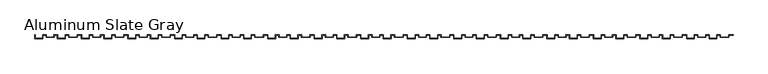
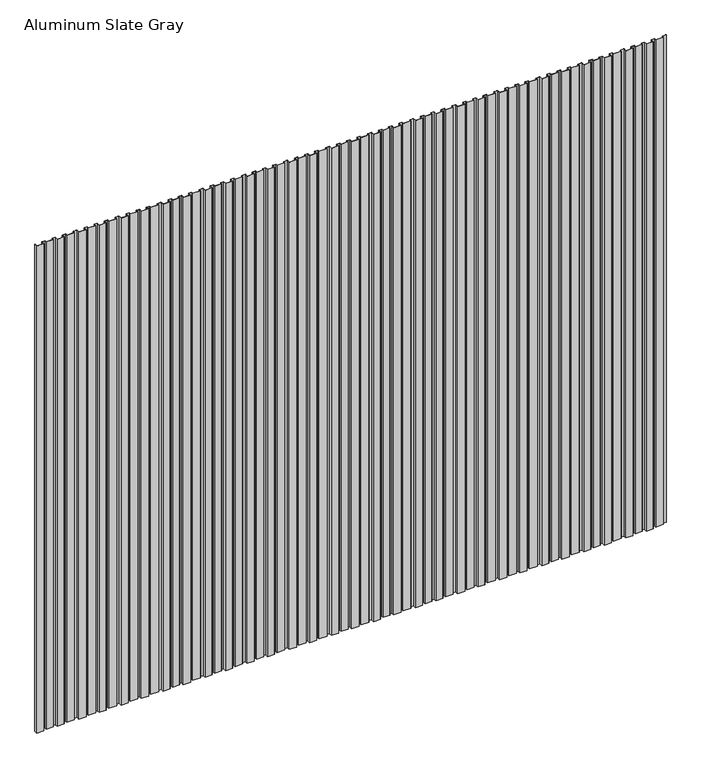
"""IFC4 building model written with IfcOpenShell, lengths in millimetres: proxy geometry, TITANTEK DV 3 VariPanel : Aluminum Slate Gray."""

from ifc_helpers import new_model, si_unit, origin, origin_with_axes, place, context, project, spatial, polyline, outline, extrude, source, transform, mapped, element, save


def aluminum_slate_gray_67ce4d6b(model_context):
    return source(origin(), model_context, "Body", "SweptSolid", [
        extrude(outline(polyline([(4876.403125, -0.9921875), (4876.403125, -15.875), (4815.284375, -15.875), (4815.284375, -0.9921875), (4791.86875, -0.9921875), (4791.86875, -25.4), (4736.30625, -25.4), (4736.30625, -0.9921875), (4712.890625, -0.9921875), (4712.890625, -15.875), (4657.328125, -15.875), (4657.328125, -0.9921875), (4633.9125, -0.9921875), (4633.9125, -25.4), (4578.35, -25.4), (4578.35, 0.0), (4579.3421875, 0.0), (4579.3421875, -24.4078125), (4632.9203125, -24.4078125), (4632.9203125, 0.0), (4658.3203125, 0.0), (4658.3203125, -14.8828125), (4711.8984375, -14.8828125), (4711.8984375, 0.0), (4737.2984375, 0.0), (4737.2984375, -24.4078125), (4790.8765625, -24.4078125), (4790.8765625, 0.0), (4816.2765625, 0.0), (4816.2765625, -14.8828125), (4875.4109375, -14.8828125), (4875.4109375, 0.0), (4905.375, 0.0), (4905.375, -0.9921875), (4876.403125, -0.9921875)])), origin_with_axes(), (0.0, 0.0, 1.0), 4000.0),
        extrude(outline(polyline([(4549.378125, -0.9921875), (4549.378125, -15.875), (4488.259375, -15.875), (4488.259375, -0.9921875), (4464.84375, -0.9921875), (4464.84375, -25.4), (4409.28125, -25.4), (4409.28125, -0.9921875), (4385.865625, -0.9921875), (4385.865625, -15.875), (4330.303125, -15.875), (4330.303125, -0.9921875), (4306.8875, -0.9921875), (4306.8875, -25.4), (4251.325, -25.4), (4251.325, 0.0), (4252.3171875, 0.0), (4252.3171875, -24.4078125), (4305.8953125, -24.4078125), (4305.8953125, 0.0), (4331.2953125, 0.0), (4331.2953125, -14.8828125), (4384.8734375, -14.8828125), (4384.8734375, 0.0), (4410.2734375, 0.0), (4410.2734375, -24.4078125), (4463.8515625, -24.4078125), (4463.8515625, 0.0), (4489.2515625, 0.0), (4489.2515625, -14.8828125), (4548.3859375, -14.8828125), (4548.3859375, 0.0), (4578.35, 0.0), (4578.35, -0.9921875), (4549.378125, -0.9921875)])), origin_with_axes(), (0.0, 0.0, 1.0), 4000.0),
        extrude(outline(polyline([(4222.353125, -0.9921875), (4222.353125, -15.875), (4161.234375, -15.875), (4161.234375, -0.9921875), (4137.81875, -0.9921875), (4137.81875, -25.4), (4082.25625, -25.4), (4082.25625, -0.9921875), (4058.840625, -0.9921875), (4058.840625, -15.875), (4003.278125, -15.875), (4003.278125, -0.9921875), (3979.8625, -0.9921875), (3979.8625, -25.4), (3924.3, -25.4), (3924.3, 0.0), (3925.2921875, 0.0), (3925.2921875, -24.4078125), (3978.8703125, -24.4078125), (3978.8703125, 0.0), (4004.2703125, 0.0), (4004.2703125, -14.8828125), (4057.8484375, -14.8828125), (4057.8484375, 0.0), (4083.2484375, 0.0), (4083.2484375, -24.4078125), (4136.8265625, -24.4078125), (4136.8265625, 0.0), (4162.2265625, 0.0), (4162.2265625, -14.8828125), (4221.3609375, -14.8828125), (4221.3609375, 0.0), (4251.325, 0.0), (4251.325, -0.9921875), (4222.353125, -0.9921875)])), origin_with_axes(), (0.0, 0.0, 1.0), 4000.0),
        extrude(outline(polyline([(3895.328125, -0.9921875), (3895.328125, -15.875), (3834.209375, -15.875), (3834.209375, -0.9921875), (3810.79375, -0.9921875), (3810.79375, -25.4), (3755.23125, -25.4), (3755.23125, -0.9921875), (3731.815625, -0.9921875), (3731.815625, -15.875), (3676.253125, -15.875), (3676.253125, -0.9921875), (3652.8375, -0.9921875), (3652.8375, -25.4), (3597.275, -25.4), (3597.275, 0.0), (3598.2671875, 0.0), (3598.2671875, -24.4078125), (3651.8453125, -24.4078125), (3651.8453125, 0.0), (3677.2453125, 0.0), (3677.2453125, -14.8828125), (3730.8234375, -14.8828125), (3730.8234375, 0.0), (3756.2234375, 0.0), (3756.2234375, -24.4078125), (3809.8015625, -24.4078125), (3809.8015625, 0.0), (3835.2015625, 0.0), (3835.2015625, -14.8828125), (3894.3359375, -14.8828125), (3894.3359375, 0.0), (3924.3, 0.0), (3924.3, -0.9921875), (3895.328125, -0.9921875)])), origin_with_axes(), (0.0, 0.0, 1.0), 4000.0),
        extrude(outline(polyline([(3568.303125, -0.9921875), (3568.303125, -15.875), (3507.184375, -15.875), (3507.184375, -0.9921875), (3483.76875, -0.9921875), (3483.76875, -25.4), (3428.20625, -25.4), (3428.20625, -0.9921875), (3404.790625, -0.9921875), (3404.790625, -15.875), (3349.228125, -15.875), (3349.228125, -0.9921875), (3325.8125, -0.9921875), (3325.8125, -25.4), (3270.25, -25.4), (3270.25, 0.0), (3271.2421875, 0.0), (3271.2421875, -24.4078125), (3324.8203125, -24.4078125), (3324.8203125, 0.0), (3350.2203125, 0.0), (3350.2203125, -14.8828125), (3403.7984375, -14.8828125), (3403.7984375, 0.0), (3429.1984375, 0.0), (3429.1984375, -24.4078125), (3482.7765625, -24.4078125), (3482.7765625, 0.0), (3508.1765625, 0.0), (3508.1765625, -14.8828125), (3567.3109375, -14.8828125), (3567.3109375, 0.0), (3597.275, 0.0), (3597.275, -0.9921875), (3568.303125, -0.9921875)])), origin_with_axes(), (0.0, 0.0, 1.0), 4000.0),
        extrude(outline(polyline([(3241.278125, -0.9921875), (3241.278125, -15.875), (3180.159375, -15.875), (3180.159375, -0.9921875), (3156.74375, -0.9921875), (3156.74375, -25.4), (3101.18125, -25.4), (3101.18125, -0.9921875), (3077.765625, -0.9921875), (3077.765625, -15.875), (3022.203125, -15.875), (3022.203125, -0.9921875), (2998.7875, -0.9921875), (2998.7875, -25.4), (2943.225, -25.4), (2943.225, 0.0), (2944.2171875, 0.0), (2944.2171875, -24.4078125), (2997.7953125, -24.4078125), (2997.7953125, 0.0), (3023.1953125, 0.0), (3023.1953125, -14.8828125), (3076.7734375, -14.8828125), (3076.7734375, 0.0), (3102.1734375, 0.0), (3102.1734375, -24.4078125), (3155.7515625, -24.4078125), (3155.7515625, 0.0), (3181.1515625, 0.0), (3181.1515625, -14.8828125), (3240.2859375, -14.8828125), (3240.2859375, 0.0), (3270.25, 0.0), (3270.25, -0.9921875), (3241.278125, -0.9921875)])), origin_with_axes(), (0.0, 0.0, 1.0), 4000.0),
        extrude(outline(polyline([(2914.253125, -0.9921875), (2914.253125, -15.875), (2853.134375, -15.875), (2853.134375, -0.9921875), (2829.71875, -0.9921875), (2829.71875, -25.4), (2774.15625, -25.4), (2774.15625, -0.9921875), (2750.740625, -0.9921875), (2750.740625, -15.875), (2695.178125, -15.875), (2695.178125, -0.9921875), (2671.7625, -0.9921875), (2671.7625, -25.4), (2616.2, -25.4), (2616.2, 0.0), (2617.1921875, 0.0), (2617.1921875, -24.4078125), (2670.7703125, -24.4078125), (2670.7703125, 0.0), (2696.1703125, 0.0), (2696.1703125, -14.8828125), (2749.7484375, -14.8828125), (2749.7484375, 0.0), (2775.1484375, 0.0), (2775.1484375, -24.4078125), (2828.7265625, -24.4078125), (2828.7265625, 0.0), (2854.1265625, 0.0), (2854.1265625, -14.8828125), (2913.2609375, -14.8828125), (2913.2609375, 0.0), (2943.225, 0.0), (2943.225, -0.9921875), (2914.253125, -0.9921875)])), origin_with_axes(), (0.0, 0.0, 1.0), 4000.0),
        extrude(outline(polyline([(2587.228125, -0.9921875), (2587.228125, -15.875), (2526.109375, -15.875), (2526.109375, -0.9921875), (2502.69375, -0.9921875), (2502.69375, -25.4), (2447.13125, -25.4), (2447.13125, -0.9921875), (2423.715625, -0.9921875), (2423.715625, -15.875), (2368.153125, -15.875), (2368.153125, -0.9921875), (2344.7375, -0.9921875), (2344.7375, -25.4), (2289.175, -25.4), (2289.175, 0.0), (2290.1671875, 0.0), (2290.1671875, -24.4078125), (2343.7453125, -24.4078125), (2343.7453125, 0.0), (2369.1453125, 0.0), (2369.1453125, -14.8828125), (2422.7234375, -14.8828125), (2422.7234375, 0.0), (2448.1234375, 0.0), (2448.1234375, -24.4078125), (2501.7015625, -24.4078125), (2501.7015625, 0.0), (2527.1015625, 0.0), (2527.1015625, -14.8828125), (2586.2359375, -14.8828125), (2586.2359375, 0.0), (2616.2, 0.0), (2616.2, -0.9921875), (2587.228125, -0.9921875)])), origin_with_axes(), (0.0, 0.0, 1.0), 4000.0),
        extrude(outline(polyline([(2260.203125, -0.9921875), (2260.203125, -15.875), (2199.084375, -15.875), (2199.084375, -0.9921875), (2175.66875, -0.9921875), (2175.66875, -25.4), (2120.10625, -25.4), (2120.10625, -0.9921875), (2096.690625, -0.9921875), (2096.690625, -15.875), (2041.128125, -15.875), (2041.128125, -0.9921875), (2017.7125, -0.9921875), (2017.7125, -25.4), (1962.15, -25.4), (1962.15, 0.0), (1963.1421875, 0.0), (1963.1421875, -24.4078125), (2016.7203125, -24.4078125), (2016.7203125, 0.0), (2042.1203125, 0.0), (2042.1203125, -14.8828125), (2095.6984375, -14.8828125), (2095.6984375, 0.0), (2121.0984375, 0.0), (2121.0984375, -24.4078125), (2174.6765625, -24.4078125), (2174.6765625, 0.0), (2200.0765625, 0.0), (2200.0765625, -14.8828125), (2259.2109375, -14.8828125), (2259.2109375, 0.0), (2289.175, 0.0), (2289.175, -0.9921875), (2260.203125, -0.9921875)])), origin_with_axes(), (0.0, 0.0, 1.0), 4000.0),
        extrude(outline(polyline([(1933.178125, -0.9921875), (1933.178125, -15.875), (1872.059375, -15.875), (1872.059375, -0.9921875), (1848.64375, -0.9921875), (1848.64375, -25.4), (1793.08125, -25.4), (1793.08125, -0.9921875), (1769.665625, -0.9921875), (1769.665625, -15.875), (1714.103125, -15.875), (1714.103125, -0.9921875), (1690.6875, -0.9921875), (1690.6875, -25.4), (1635.125, -25.4), (1635.125, 0.0), (1636.1171875, 0.0), (1636.1171875, -24.4078125), (1689.6953125, -24.4078125), (1689.6953125, 0.0), (1715.0953125, 0.0), (1715.0953125, -14.8828125), (1768.6734375, -14.8828125), (1768.6734375, 0.0), (1794.0734375, 0.0), (1794.0734375, -24.4078125), (1847.6515625, -24.4078125), (1847.6515625, 0.0), (1873.0515625, 0.0), (1873.0515625, -14.8828125), (1932.1859375, -14.8828125), (1932.1859375, 0.0), (1962.15, 0.0), (1962.15, -0.9921875), (1933.178125, -0.9921875)])), origin_with_axes(), (0.0, 0.0, 1.0), 4000.0),
        extrude(outline(polyline([(1606.153125, -0.9921875), (1606.153125, -15.875), (1545.034375, -15.875), (1545.034375, -0.9921875), (1521.61875, -0.9921875), (1521.61875, -25.4), (1466.05625, -25.4), (1466.05625, -0.9921875), (1442.640625, -0.9921875), (1442.640625, -15.875), (1387.078125, -15.875), (1387.078125, -0.9921875), (1363.6625, -0.9921875), (1363.6625, -25.4), (1308.1, -25.4), (1308.1, 0.0), (1309.0921875, 0.0), (1309.0921875, -24.4078125), (1362.6703125, -24.4078125), (1362.6703125, 0.0), (1388.0703125, 0.0), (1388.0703125, -14.8828125), (1441.6484375, -14.8828125), (1441.6484375, 0.0), (1467.0484375, 0.0), (1467.0484375, -24.4078125), (1520.6265625, -24.4078125), (1520.6265625, 0.0), (1546.0265625, 0.0), (1546.0265625, -14.8828125), (1605.1609375, -14.8828125), (1605.1609375, 0.0), (1635.125, 0.0), (1635.125, -0.9921875), (1606.153125, -0.9921875)])), origin_with_axes(), (0.0, 0.0, 1.0), 4000.0),
        extrude(outline(polyline([(1279.128125, -0.9921875), (1279.128125, -15.875), (1218.009375, -15.875), (1218.009375, -0.9921875), (1194.59375, -0.9921875), (1194.59375, -25.4), (1139.03125, -25.4), (1139.03125, -0.9921875), (1115.615625, -0.9921875), (1115.615625, -15.875), (1060.053125, -15.875), (1060.053125, -0.9921875), (1036.6375, -0.9921875), (1036.6375, -25.4), (981.075, -25.4), (981.075, 0.0), (982.0671875, 0.0), (982.0671875, -24.4078125), (1035.6453125, -24.4078125), (1035.6453125, 0.0), (1061.0453125, 0.0), (1061.0453125, -14.8828125), (1114.6234375, -14.8828125), (1114.6234375, 0.0), (1140.0234375, 0.0), (1140.0234375, -24.4078125), (1193.6015625, -24.4078125), (1193.6015625, 0.0), (1219.0015625, 0.0), (1219.0015625, -14.8828125), (1278.1359375, -14.8828125), (1278.1359375, 0.0), (1308.1, 0.0), (1308.1, -0.9921875), (1279.128125, -0.9921875)])), origin_with_axes(), (0.0, 0.0, 1.0), 4000.0),
        extrude(outline(polyline([(952.103125, -0.9921875), (952.103125, -15.875), (890.984375, -15.875), (890.984375, -0.9921875), (867.56875, -0.9921875), (867.56875, -25.4), (812.00625, -25.4), (812.00625, -0.9921875), (788.590625, -0.9921875), (788.590625, -15.875), (733.028125, -15.875), (733.028125, -0.9921875), (709.6125, -0.9921875), (709.6125, -25.4), (654.05, -25.4), (654.05, 0.0), (655.0421875, 0.0), (655.0421875, -24.4078125), (708.6203125, -24.4078125), (708.6203125, 0.0), (734.0203125, 0.0), (734.0203125, -14.8828125), (787.5984375, -14.8828125), (787.5984375, 0.0), (812.9984375, 0.0), (812.9984375, -24.4078125), (866.5765625, -24.4078125), (866.5765625, 0.0), (891.9765625, 0.0), (891.9765625, -14.8828125), (951.1109375, -14.8828125), (951.1109375, 0.0), (981.075, 0.0), (981.075, -0.9921875), (952.103125, -0.9921875)])), origin_with_axes(), (0.0, 0.0, 1.0), 4000.0),
        extrude(outline(polyline([(625.078125, -0.9921875), (625.078125, -15.875), (563.959375, -15.875), (563.959375, -0.9921875), (540.54375, -0.9921875), (540.54375, -25.4), (484.98125, -25.4), (484.98125, -0.9921875), (461.565625, -0.9921875), (461.565625, -15.875), (406.003125, -15.875), (406.003125, -0.9921875), (382.5875, -0.9921875), (382.5875, -25.4), (327.025, -25.4), (327.025, 0.0), (328.0171875, 0.0), (328.0171875, -24.4078125), (381.5953125, -24.4078125), (381.5953125, 0.0), (406.9953125, 0.0), (406.9953125, -14.8828125), (460.5734375, -14.8828125), (460.5734375, 0.0), (485.9734375, 0.0), (485.9734375, -24.4078125), (539.5515625, -24.4078125), (539.5515625, 0.0), (564.9515625, 0.0), (564.9515625, -14.8828125), (624.0859375, -14.8828125), (624.0859375, 0.0), (654.05, 0.0), (654.05, -0.9921875), (625.078125, -0.9921875)])), origin_with_axes(), (0.0, 0.0, 1.0), 4000.0),
        extrude(outline(polyline([(298.053125, -0.9921875), (298.053125, -15.875), (236.934375, -15.875), (236.934375, -0.9921875), (213.51875, -0.9921875), (213.51875, -25.4), (157.95625, -25.4), (157.95625, -0.9921875), (134.540625, -0.9921875), (134.540625, -15.875), (78.978125, -15.875), (78.978125, -0.9921875), (55.5625, -0.9921875), (55.5625, -25.4), (0.0, -25.4), (0.0, 0.0), (0.9921875, 0.0), (0.9921875, -24.4078125), (54.5703125, -24.4078125), (54.5703125, 0.0), (79.9703125, 0.0), (79.9703125, -14.8828125), (133.5484375, -14.8828125), (133.5484375, 0.0), (158.9484375, 0.0), (158.9484375, -24.4078125), (212.5265625, -24.4078125), (212.5265625, 0.0), (237.9265625, 0.0), (237.9265625, -14.8828125), (297.0609375, -14.8828125), (297.0609375, 0.0), (327.025, 0.0), (327.025, -0.9921875), (298.053125, -0.9921875)])), origin_with_axes(), (0.0, 0.0, 1.0), 4000.0),
    ])


if __name__ == "__main__":
    model = new_model("IFC4")
    model_context = context("Model", 3, world=origin())
    ifc_project = project(units=[si_unit("LENGTHUNIT", "METRE", prefix="MILLI")], contexts=[model_context])
    site = spatial("IfcSite", under=ifc_project)
    building = spatial("IfcBuilding", under=site)
    placement = place(None, origin())
    aluminum_slate_gray_shape = aluminum_slate_gray_67ce4d6b(model_context)
    element("IfcBuildingElementProxy", 1, Name="TITANTEK DV 3 VariPanel : Aluminum Slate Gray", ObjectType="TITANTEK DV 3 VariPanel : Aluminum Slate Gray", at=placement, inside=building, context=model_context, shape_type="MappedRepresentation", body=[
        mapped(aluminum_slate_gray_shape, transform((0.0, 0.0, 0.0), x_axis=(1.0, 0.0, 0.0), y_axis=(0.0, 1.0, 0.0), z_axis=(0.0, 0.0, 1.0))),
    ])
    save(model, "model.ifc")
